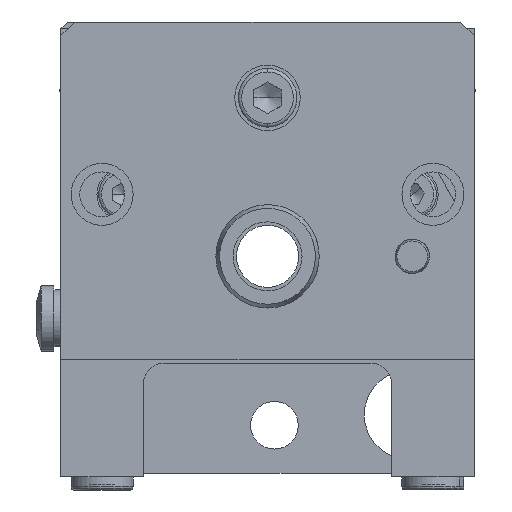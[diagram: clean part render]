
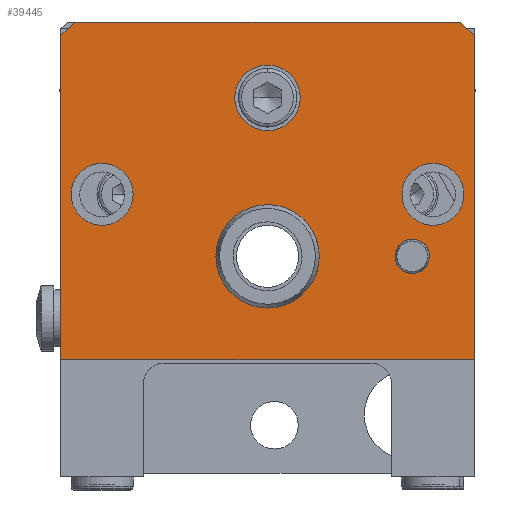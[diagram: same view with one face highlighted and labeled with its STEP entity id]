
A CAD part, front view. The second image highlights one B-rep face of the part: STEP entity #39445.
In plain terms, the highlighted planar face has unit normal (0, -1, 0).
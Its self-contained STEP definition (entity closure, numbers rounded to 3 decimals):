
#35463=CARTESIAN_POINT('',(-28.5,-109.,27.383));
#35464=VERTEX_POINT('',#35463);
#35480=CARTESIAN_POINT('',(-19.5,-109.,27.383));
#35481=VERTEX_POINT('',#35480);
#35488=CARTESIAN_POINT('',(-24.,-109.,27.383));
#35489=DIRECTION('',(0.0,1.0,0.0));
#35490=DIRECTION('',(-1.0,0.0,0.0));
#35491=AXIS2_PLACEMENT_3D('',#35488,#35489,#35490);
#35492=CIRCLE('',#35491,4.5);
#35493=EDGE_CURVE('',#35464,#35481,#35492,.T.);
#35526=CARTESIAN_POINT('',(19.5,-109.,27.383));
#35527=VERTEX_POINT('',#35526);
#35543=CARTESIAN_POINT('',(28.5,-109.,27.383));
#35544=VERTEX_POINT('',#35543);
#35551=CARTESIAN_POINT('',(24.,-109.,27.383));
#35552=DIRECTION('',(0.0,1.0,0.0));
#35553=DIRECTION('',(-1.0,0.0,0.0));
#35554=AXIS2_PLACEMENT_3D('',#35551,#35552,#35553);
#35555=CIRCLE('',#35554,4.5);
#35556=EDGE_CURVE('',#35527,#35544,#35555,.T.);
#35589=CARTESIAN_POINT('',(-4.75,-109.,41.383));
#35590=VERTEX_POINT('',#35589);
#35606=CARTESIAN_POINT('',(4.75,-109.,41.383));
#35607=VERTEX_POINT('',#35606);
#35614=CARTESIAN_POINT('',(0.,-109.,41.383));
#35615=DIRECTION('',(0.0,1.0,0.0));
#35616=DIRECTION('',(-1.0,0.0,0.0));
#35617=AXIS2_PLACEMENT_3D('',#35614,#35615,#35616);
#35618=CIRCLE('',#35617,4.75);
#35619=EDGE_CURVE('',#35590,#35607,#35618,.T.);
#35938=CARTESIAN_POINT('',(18.5,-109.,18.383));
#35939=VERTEX_POINT('',#35938);
#35948=CARTESIAN_POINT('',(23.5,-109.,18.383));
#35949=VERTEX_POINT('',#35948);
#35950=CARTESIAN_POINT('',(21.,-109.,18.383));
#35951=DIRECTION('',(0.0,1.0,0.0));
#35952=DIRECTION('',(-1.0,0.0,0.0));
#35953=AXIS2_PLACEMENT_3D('',#35950,#35951,#35952);
#35954=CIRCLE('',#35953,2.5);
#35955=EDGE_CURVE('',#35949,#35939,#35954,.T.);
#36564=CARTESIAN_POINT('',(4.789,-109.,12.612));
#36565=VERTEX_POINT('',#36564);
#36579=CARTESIAN_POINT('',(-4.789,-109.,24.155));
#36580=VERTEX_POINT('',#36579);
#36587=CARTESIAN_POINT('',(0.,-109.,18.383));
#36588=DIRECTION('',(0.0,1.0,0.0));
#36589=DIRECTION('',(-1.0,0.0,0.0));
#36590=AXIS2_PLACEMENT_3D('',#36587,#36588,#36589);
#36591=CIRCLE('',#36590,7.5);
#36592=EDGE_CURVE('',#36565,#36580,#36591,.T.);
#38527=CARTESIAN_POINT('',(7.5,-109.,18.383));
#38528=VERTEX_POINT('',#38527);
#38529=CARTESIAN_POINT('',(0.,-109.,18.383));
#38530=DIRECTION('',(0.0,1.0,0.0));
#38531=DIRECTION('',(-1.0,0.0,0.0));
#38532=AXIS2_PLACEMENT_3D('',#38529,#38530,#38531);
#38533=CIRCLE('',#38532,7.5);
#38534=EDGE_CURVE('',#38528,#36565,#38533,.T.);
#38536=CARTESIAN_POINT('',(0.,-109.,18.383));
#38537=DIRECTION('',(0.0,1.0,0.0));
#38538=DIRECTION('',(-1.0,0.0,0.0));
#38539=AXIS2_PLACEMENT_3D('',#38536,#38537,#38538);
#38540=CIRCLE('',#38539,7.5);
#38541=EDGE_CURVE('',#36580,#38528,#38540,.T.);
#39291=CARTESIAN_POINT('',(-30.,-109.0,50.383));
#39292=VERTEX_POINT('',#39291);
#39293=CARTESIAN_POINT('',(-28.,-109.0,52.383));
#39294=VERTEX_POINT('',#39293);
#39295=CARTESIAN_POINT('',(-30.,-109.0,50.383));
#39296=DIRECTION('',(0.707,0.0,0.707));
#39297=VECTOR('',#39296,2.828);
#39298=LINE('',#39295,#39297);
#39299=EDGE_CURVE('',#39292,#39294,#39298,.T.);
#39323=CARTESIAN_POINT('',(28.,-109.,52.383));
#39324=VERTEX_POINT('',#39323);
#39325=CARTESIAN_POINT('',(-28.,-109.0,52.383));
#39326=DIRECTION('',(1.0,0.0,0.0));
#39327=VECTOR('',#39326,56.);
#39328=LINE('',#39325,#39327);
#39329=EDGE_CURVE('',#39294,#39324,#39328,.T.);
#39361=CARTESIAN_POINT('',(0.,-109.,27.883));
#39362=DIRECTION('',(0.0,-1.0,0.0));
#39363=DIRECTION('',(0.0,0.0,1.0));
#39364=AXIS2_PLACEMENT_3D('',#39361,#39362,#39363);
#39365=PLANE('',#39364);
#39366=ORIENTED_EDGE('',*,*,#39299,.F.);
#39367=CARTESIAN_POINT('',(-30.,-109.,3.383));
#39368=VERTEX_POINT('',#39367);
#39369=CARTESIAN_POINT('',(-30.,-109.,3.383));
#39370=DIRECTION('',(0.0,0.0,1.0));
#39371=VECTOR('',#39370,47.);
#39372=LINE('',#39369,#39371);
#39373=EDGE_CURVE('',#39368,#39292,#39372,.T.);
#39374=ORIENTED_EDGE('',*,*,#39373,.F.);
#39375=CARTESIAN_POINT('',(30.,-109.,3.383));
#39376=VERTEX_POINT('',#39375);
#39377=CARTESIAN_POINT('',(30.,-109.,3.383));
#39378=DIRECTION('',(-1.0,0.0,0.0));
#39379=VECTOR('',#39378,60.0);
#39380=LINE('',#39377,#39379);
#39381=EDGE_CURVE('',#39376,#39368,#39380,.T.);
#39382=ORIENTED_EDGE('',*,*,#39381,.F.);
#39383=CARTESIAN_POINT('',(30.,-109.,50.383));
#39384=VERTEX_POINT('',#39383);
#39385=CARTESIAN_POINT('',(30.,-109.,50.383));
#39386=DIRECTION('',(0.0,0.0,-1.0));
#39387=VECTOR('',#39386,47.0);
#39388=LINE('',#39385,#39387);
#39389=EDGE_CURVE('',#39384,#39376,#39388,.T.);
#39390=ORIENTED_EDGE('',*,*,#39389,.F.);
#39391=CARTESIAN_POINT('',(28.,-109.,52.383));
#39392=DIRECTION('',(0.707,0.0,-0.707));
#39393=VECTOR('',#39392,2.828);
#39394=LINE('',#39391,#39393);
#39395=EDGE_CURVE('',#39324,#39384,#39394,.T.);
#39396=ORIENTED_EDGE('',*,*,#39395,.F.);
#39397=ORIENTED_EDGE('',*,*,#39329,.F.);
#39398=EDGE_LOOP('',(#39366,#39374,#39382,#39390,#39396,#39397));
#39399=FACE_OUTER_BOUND('',#39398,.T.);
#39400=ORIENTED_EDGE('',*,*,#35955,.T.);
#39401=CARTESIAN_POINT('',(21.,-109.,18.383));
#39402=DIRECTION('',(0.0,1.0,0.0));
#39403=DIRECTION('',(-1.0,0.0,0.0));
#39404=AXIS2_PLACEMENT_3D('',#39401,#39402,#39403);
#39405=CIRCLE('',#39404,2.5);
#39406=EDGE_CURVE('',#35939,#35949,#39405,.T.);
#39407=ORIENTED_EDGE('',*,*,#39406,.T.);
#39408=EDGE_LOOP('',(#39400,#39407));
#39409=FACE_BOUND('',#39408,.T.);
#39410=ORIENTED_EDGE('',*,*,#35619,.T.);
#39411=CARTESIAN_POINT('',(0.,-109.,41.383));
#39412=DIRECTION('',(0.0,1.0,0.0));
#39413=DIRECTION('',(-1.0,0.0,0.0));
#39414=AXIS2_PLACEMENT_3D('',#39411,#39412,#39413);
#39415=CIRCLE('',#39414,4.75);
#39416=EDGE_CURVE('',#35607,#35590,#39415,.T.);
#39417=ORIENTED_EDGE('',*,*,#39416,.T.);
#39418=EDGE_LOOP('',(#39410,#39417));
#39419=FACE_BOUND('',#39418,.T.);
#39420=ORIENTED_EDGE('',*,*,#35556,.T.);
#39421=CARTESIAN_POINT('',(24.,-109.,27.383));
#39422=DIRECTION('',(0.0,1.0,0.0));
#39423=DIRECTION('',(-1.0,0.0,0.0));
#39424=AXIS2_PLACEMENT_3D('',#39421,#39422,#39423);
#39425=CIRCLE('',#39424,4.5);
#39426=EDGE_CURVE('',#35544,#35527,#39425,.T.);
#39427=ORIENTED_EDGE('',*,*,#39426,.T.);
#39428=EDGE_LOOP('',(#39420,#39427));
#39429=FACE_BOUND('',#39428,.T.);
#39430=ORIENTED_EDGE('',*,*,#35493,.T.);
#39431=CARTESIAN_POINT('',(-24.,-109.,27.383));
#39432=DIRECTION('',(0.0,1.0,0.0));
#39433=DIRECTION('',(-1.0,0.0,0.0));
#39434=AXIS2_PLACEMENT_3D('',#39431,#39432,#39433);
#39435=CIRCLE('',#39434,4.5);
#39436=EDGE_CURVE('',#35481,#35464,#39435,.T.);
#39437=ORIENTED_EDGE('',*,*,#39436,.T.);
#39438=EDGE_LOOP('',(#39430,#39437));
#39439=FACE_BOUND('',#39438,.T.);
#39440=ORIENTED_EDGE('',*,*,#38534,.T.);
#39441=ORIENTED_EDGE('',*,*,#36592,.T.);
#39442=ORIENTED_EDGE('',*,*,#38541,.T.);
#39443=EDGE_LOOP('',(#39440,#39441,#39442));
#39444=FACE_BOUND('',#39443,.T.);
#39445=ADVANCED_FACE('',(#39399,#39409,#39419,#39429,#39439,#39444),#39365,.T.);
